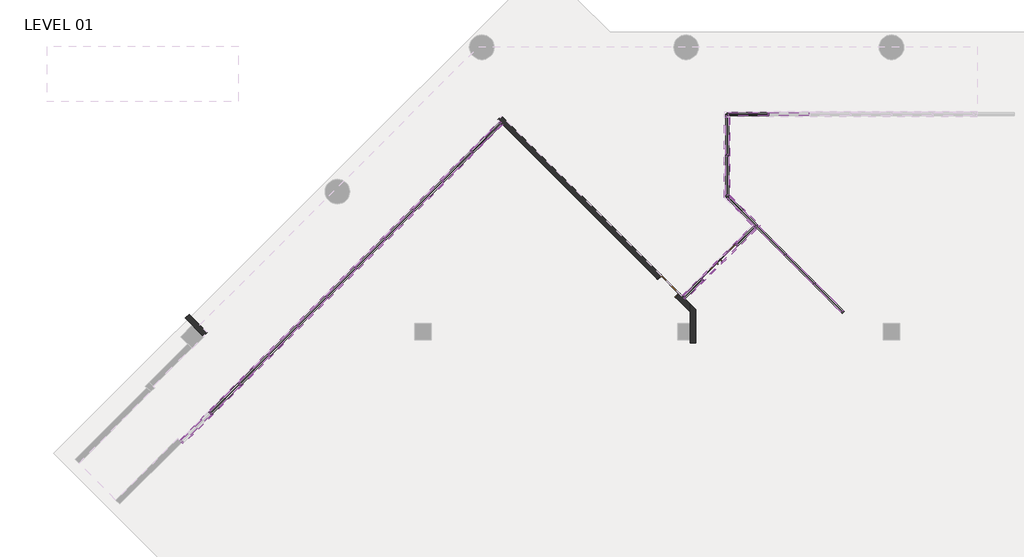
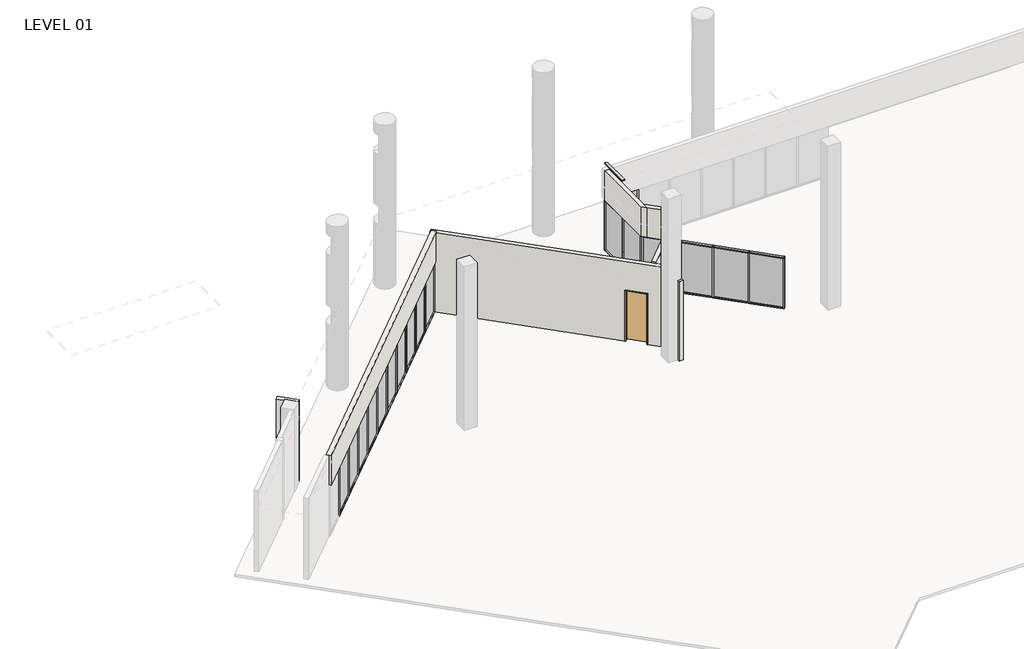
# One storey, part 6 of 24: 78 members, 19 plates, 7 walls, 2 doors.
"""IFC4 building model written with IfcOpenShell, lengths in millimetres."""

from ifc_helpers import new_model, si_unit, frame, origin, origin_with_axes, place, context, project, spatial, polyline, outline, extrude, faceted_brep, transform, mapped, element, save
from components import curtain_wall_dbl_glass_curtain_wall_dbl_glass_222e0a92, door_25aa1bd3, member_5247f267, member_e44af9ab, member_800970d4, member_35b16393, member_cca1f9e6, member_67d17f7f, member_d5560c68, member_05e6bac6, plate_67294edd, plate_aaac5d3d, plate_5a14c350, plate_4fb64caf, plate_748a28b9

model = new_model("IFC4")

# Units and contexts
model_context = context("Model", 3, world=origin())
ifc_project = project(units=[si_unit("LENGTHUNIT", "METRE", prefix="MILLI")], contexts=[model_context])

# Site, building, storey
site = spatial("IfcSite", under=ifc_project)
building = spatial("IfcBuilding", under=site)
storey = spatial("IfcBuildingStorey", under=building, Name="LEVEL 01", Elevation=0.0)

# Doors
placement = place(None, origin())
curtain_wall_dbl_glass_curtain_wall_dbl_glass_shape = curtain_wall_dbl_glass_curtain_wall_dbl_glass_222e0a92(model_context)
element("IfcDoor", 1, ObjectType="Curtain Wall Dbl Glass : Curtain Wall Dbl Glass", at=placement, inside=storey, context=model_context, shape_type="MappedRepresentation", body=[
    mapped(curtain_wall_dbl_glass_curtain_wall_dbl_glass_shape, transform((19633.6601484, 17599.7315515, 0.0), x_axis=(-0.7071067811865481, -0.7071067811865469, 0.0), y_axis=(0.7071067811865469, -0.7071067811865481, 0.0), z_axis=(0.0, 0.0, 1.0))),
])
door_shape = door_25aa1bd3(model_context)
element("IfcDoor", 2, ObjectType="Single Flush-Full Flush-FF : 3'-0\" X 8'-6\"", at=placement, inside=storey, context=model_context, shape_type="MappedRepresentation", body=[
    mapped(door_shape, transform((17740.4219585, 16704.6002158, 0.0), x_axis=(-0.7071067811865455, 0.7071067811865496, 0.0), y_axis=(-0.7071067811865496, -0.7071067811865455, 0.0), z_axis=(0.0, 0.0, 1.0))),
])

# Members
member_shape = member_5247f267(model_context)
element("IfcMember", 3, ObjectType="Rectangular Mullion : 2\" x 4.5\" rectangular", at=placement, inside=storey, context=model_context, shape_type="MappedRepresentation", body=[
    mapped(member_shape, transform((772.3020264, 12012.4904011, 0.0), x_axis=(0.0, 0.0, -1.0), y_axis=(0.707106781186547, -0.7071067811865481, 0.0), z_axis=(-0.707106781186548, -0.7071067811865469, 0.0))),
])
element("IfcMember", 4, ObjectType="Rectangular Mullion : 2\" x 4.5\" rectangular", at=placement, inside=storey, context=model_context, shape_type="MappedRepresentation", body=[
    mapped(member_shape, transform((4005.1646265, 15245.3530013, 0.0), x_axis=(0.0, 0.0, -1.0), y_axis=(0.7071067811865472, -0.7071067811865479, 0.0), z_axis=(-0.7071067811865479, -0.7071067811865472, 0.0))),
])
element("IfcMember", 5, ObjectType="Rectangular Mullion : 2\" x 4.5\" rectangular", at=placement, inside=storey, context=model_context, shape_type="MappedRepresentation", body=[
    mapped(member_shape, transform((6160.3964921, 17400.5848669, 0.0), x_axis=(0.0, 0.0, -1.0), y_axis=(0.7071067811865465, -0.7071067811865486, 0.0), z_axis=(-0.7071067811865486, -0.7071067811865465, 0.0))),
])
element("IfcMember", 6, ObjectType="Rectangular Mullion : 2\" x 4.5\" rectangular", at=placement, inside=storey, context=model_context, shape_type="MappedRepresentation", body=[
    mapped(member_shape, transform((7238.012425, 18478.2007997, 0.0), x_axis=(0.0, 0.0, -1.0), y_axis=(0.7071067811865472, -0.7071067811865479, 0.0), z_axis=(-0.7071067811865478, -0.7071067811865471, 0.0))),
])
element("IfcMember", 7, ObjectType="Rectangular Mullion : 2\" x 4.5\" rectangular", at=placement, inside=storey, context=model_context, shape_type="MappedRepresentation", body=[
    mapped(member_shape, transform((9393.273894, 20633.4622687, 0.0), x_axis=(0.0, 0.0, -1.0), y_axis=(0.7071067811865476, -0.7071067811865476, 0.0), z_axis=(-0.7071067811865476, -0.7071067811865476, 0.0))),
])
element("IfcMember", 8, ObjectType="Rectangular Mullion : 2\" x 4.5\" rectangular", at=placement, inside=storey, context=model_context, shape_type="MappedRepresentation", body=[
    mapped(member_shape, transform((1849.9327609, 13090.1211357, 0.0), x_axis=(0.0, 0.0, -1.0), y_axis=(0.7071067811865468, -0.7071067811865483, 0.0), z_axis=(-0.7071067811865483, -0.7071067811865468, 0.0))),
])
element("IfcMember", 9, ObjectType="Rectangular Mullion : 2\" x 4.5\" rectangular", at=placement, inside=storey, context=model_context, shape_type="MappedRepresentation", body=[
    mapped(member_shape, transform((5082.7805593, 16322.9689341, 0.0), x_axis=(0.0, 0.0, -1.0), y_axis=(0.7071067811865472, -0.7071067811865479, 0.0), z_axis=(-0.7071067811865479, -0.7071067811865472, 0.0))),
])
element("IfcMember", 10, ObjectType="Rectangular Mullion : 2\" x 4.5\" rectangular", at=placement, inside=storey, context=model_context, shape_type="MappedRepresentation", body=[
    mapped(member_shape, transform((2927.5486937, 14167.7370685, 0.0), x_axis=(0.0, 0.0, -1.0), y_axis=(0.7071067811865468, -0.7071067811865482, 0.0), z_axis=(-0.7071067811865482, -0.7071067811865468, 0.0))),
])
element("IfcMember", 11, ObjectType="Rectangular Mullion : 2\" x 4.5\" rectangular", at=placement, inside=storey, context=model_context, shape_type="MappedRepresentation", body=[
    mapped(member_shape, transform((8315.6431595, 19555.8315342, 0.0), x_axis=(0.0, 0.0, -1.0), y_axis=(0.7071067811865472, -0.7071067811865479, 0.0), z_axis=(-0.7071067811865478, -0.7071067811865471, 0.0))),
])
element("IfcMember", 12, ObjectType="Rectangular Mullion : 2\" x 4.5\" rectangular", at=placement, inside=storey, context=model_context, shape_type="MappedRepresentation", body=[
    mapped(member_shape, transform((21015.5412468, 18945.6916253, 0.0), x_axis=(0.0, 0.0, -1.0), y_axis=(-0.7071067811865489, -0.7071067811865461, 0.0), z_axis=(-0.7071067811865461, 0.7071067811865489, 0.0))),
])
element("IfcMember", 13, ObjectType="Rectangular Mullion : 2\" x 4.5\" rectangular", at=placement, inside=storey, context=model_context, shape_type="MappedRepresentation", body=[
    mapped(member_shape, transform((22093.1719813, 17868.0608908, 0.0), x_axis=(0.0, 0.0, -1.0), y_axis=(-0.7071067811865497, -0.7071067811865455, 0.0), z_axis=(-0.7071067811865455, 0.7071067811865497, 0.0))),
])
element("IfcMember", 14, ObjectType="Rectangular Mullion : 2\" x 4.5\" rectangular", at=placement, inside=storey, context=model_context, shape_type="MappedRepresentation", body=[
    mapped(member_shape, transform((3969.2436021, 15209.4319768, 2590.8), x_axis=(0.0, 0.0, 1.0), y_axis=(0.7071067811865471, -0.7071067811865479, 0.0), z_axis=(0.7071067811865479, 0.7071067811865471, 0.0))),
])
element("IfcMember", 15, ObjectType="Rectangular Mullion : 2\" x 4.5\" rectangular", at=placement, inside=storey, context=model_context, shape_type="MappedRepresentation", body=[
    mapped(member_shape, transform((6124.4754677, 17364.6638424, 2590.8), x_axis=(0.0, 0.0, 1.0), y_axis=(0.7071067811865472, -0.7071067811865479, 0.0), z_axis=(0.7071067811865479, 0.7071067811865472, 0.0))),
])
element("IfcMember", 16, ObjectType="Rectangular Mullion : 2\" x 4.5\" rectangular", at=placement, inside=storey, context=model_context, shape_type="MappedRepresentation", body=[
    mapped(member_shape, transform((7202.0914005, 18442.2797752, 2590.8), x_axis=(0.0, 0.0, 1.0), y_axis=(0.7071067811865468, -0.7071067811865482, 0.0), z_axis=(0.7071067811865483, 0.7071067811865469, 0.0))),
])
element("IfcMember", 17, ObjectType="Rectangular Mullion : 2\" x 4.5\" rectangular", at=placement, inside=storey, context=model_context, shape_type="MappedRepresentation", body=[
    mapped(member_shape, transform((9357.3528695, 20597.5412442, 2590.8), x_axis=(0.0, 0.0, 1.0), y_axis=(0.7071067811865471, -0.7071067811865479, 0.0), z_axis=(0.7071067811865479, 0.7071067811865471, 0.0))),
])
element("IfcMember", 18, ObjectType="Rectangular Mullion : 2\" x 4.5\" rectangular", at=placement, inside=storey, context=model_context, shape_type="MappedRepresentation", body=[
    mapped(member_shape, transform((1814.0117365, 13054.2001112, 2590.8), x_axis=(0.0, 0.0, 1.0), y_axis=(0.7071067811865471, -0.707106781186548, 0.0), z_axis=(0.7071067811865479, 0.707106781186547, 0.0))),
])
element("IfcMember", 19, ObjectType="Rectangular Mullion : 2\" x 4.5\" rectangular", at=placement, inside=storey, context=model_context, shape_type="MappedRepresentation", body=[
    mapped(member_shape, transform((5046.8595349, 16287.0479096, 2590.8), x_axis=(0.0, 0.0, 1.0), y_axis=(0.7071067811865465, -0.7071067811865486, 0.0), z_axis=(0.7071067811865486, 0.7071067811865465, 0.0))),
])
element("IfcMember", 20, ObjectType="Rectangular Mullion : 2\" x 4.5\" rectangular", at=placement, inside=storey, context=model_context, shape_type="MappedRepresentation", body=[
    mapped(member_shape, transform((2891.6276693, 14131.816044, 2590.8), x_axis=(0.0, 0.0, 1.0), y_axis=(0.7071067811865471, -0.707106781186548, 0.0), z_axis=(0.707106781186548, 0.7071067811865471, 0.0))),
])
element("IfcMember", 21, ObjectType="Rectangular Mullion : 2\" x 4.5\" rectangular", at=placement, inside=storey, context=model_context, shape_type="MappedRepresentation", body=[
    mapped(member_shape, transform((8279.722135, 19519.9105097, 2590.8), x_axis=(0.0, 0.0, 1.0), y_axis=(0.7071067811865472, -0.7071067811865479, 0.0), z_axis=(0.7071067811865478, 0.7071067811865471, 0.0))),
])
element("IfcMember", 22, ObjectType="Rectangular Mullion : 2\" x 4.5\" rectangular", at=placement, inside=storey, context=model_context, shape_type="MappedRepresentation", body=[
    mapped(member_shape, transform((10434.9836041, 21675.1719788, 2590.8), x_axis=(0.0, 0.0, 1.0), y_axis=(0.7071067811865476, -0.7071067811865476, 0.0), z_axis=(0.7071067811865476, 0.7071067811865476, 0.0))),
])
element("IfcMember", 23, ObjectType="Rectangular Mullion : 2\" x 4.5\" rectangular", at=placement, inside=storey, context=model_context, shape_type="MappedRepresentation", body=[
    mapped(member_shape, transform((21469.35, 23089.2828721, 2590.8), x_axis=(0.0, 0.0, 1.0), y_axis=(0.0, 1.0, 0.0), z_axis=(-1.0, 0.0, 0.0))),
])
element("IfcMember", 24, ObjectType="Rectangular Mullion : 2\" x 4.5\" rectangular", at=placement, inside=storey, context=model_context, shape_type="MappedRepresentation", body=[
    mapped(member_shape, transform((23134.8816913, 16826.3511808, 2590.8), x_axis=(0.0, 0.0, 1.0), y_axis=(-0.7071067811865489, -0.7071067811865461, 0.0), z_axis=(0.7071067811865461, -0.7071067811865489, 0.0))),
])
element("IfcMember", 25, ObjectType="Rectangular Mullion : 2\" x 4.5\" rectangular", at=placement, inside=storey, context=model_context, shape_type="MappedRepresentation", body=[
    mapped(member_shape, transform((22057.2509568, 17903.9819153, 2590.8), x_axis=(0.0, 0.0, 1.0), y_axis=(-0.7071067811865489, -0.7071067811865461, 0.0), z_axis=(0.7071067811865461, -0.7071067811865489, 0.0))),
])
member_2_shape = member_e44af9ab(model_context)
element("IfcMember", 26, ObjectType="Rectangular Mullion : 2\" x 4.5\" rectangular", at=placement, inside=storey, context=model_context, shape_type="MappedRepresentation", body=[
    mapped(member_2_shape, transform((754.3415142, 11994.5298889, 0.0), x_axis=(0.7071067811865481, 0.7071067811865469, 0.0), y_axis=(0.7071067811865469, -0.7071067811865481, 0.0), z_axis=(0.0, 0.0, -1.0))),
])
element("IfcMember", 27, ObjectType="Rectangular Mullion : 2\" x 4.5\" rectangular", at=placement, inside=storey, context=model_context, shape_type="MappedRepresentation", body=[
    mapped(member_2_shape, transform((3987.2041143, 15227.392489, 0.0), x_axis=(0.7071067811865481, 0.7071067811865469, 0.0), y_axis=(0.7071067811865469, -0.7071067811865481, 0.0), z_axis=(0.0, 0.0, -1.0))),
])
element("IfcMember", 28, ObjectType="Rectangular Mullion : 2\" x 4.5\" rectangular", at=placement, inside=storey, context=model_context, shape_type="MappedRepresentation", body=[
    mapped(member_2_shape, transform((6142.4359799, 17382.6243546, 0.0), x_axis=(0.7071067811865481, 0.7071067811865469, 0.0), y_axis=(0.7071067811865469, -0.7071067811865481, 0.0), z_axis=(0.0, 0.0, -1.0))),
])
element("IfcMember", 29, ObjectType="Rectangular Mullion : 2\" x 4.5\" rectangular", at=placement, inside=storey, context=model_context, shape_type="MappedRepresentation", body=[
    mapped(member_2_shape, transform((7220.0519127, 18460.2402874, 0.0), x_axis=(0.7071067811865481, 0.7071067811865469, 0.0), y_axis=(0.7071067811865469, -0.7071067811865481, 0.0), z_axis=(0.0, 0.0, -1.0))),
])
element("IfcMember", 30, ObjectType="Rectangular Mullion : 2\" x 4.5\" rectangular", at=placement, inside=storey, context=model_context, shape_type="MappedRepresentation", body=[
    mapped(member_2_shape, transform((9375.3133818, 20615.5017565, 0.0), x_axis=(0.7071067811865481, 0.7071067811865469, 0.0), y_axis=(0.7071067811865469, -0.7071067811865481, 0.0), z_axis=(0.0, 0.0, -1.0))),
])
element("IfcMember", 31, ObjectType="Rectangular Mullion : 2\" x 4.5\" rectangular", at=placement, inside=storey, context=model_context, shape_type="MappedRepresentation", body=[
    mapped(member_2_shape, transform((1831.9722487, 13072.1606234, 0.0), x_axis=(0.7071067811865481, 0.7071067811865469, 0.0), y_axis=(0.7071067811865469, -0.7071067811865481, 0.0), z_axis=(0.0, 0.0, -1.0))),
])
element("IfcMember", 32, ObjectType="Rectangular Mullion : 2\" x 4.5\" rectangular", at=placement, inside=storey, context=model_context, shape_type="MappedRepresentation", body=[
    mapped(member_2_shape, transform((5064.8200471, 16305.0084218, 0.0), x_axis=(0.7071067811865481, 0.7071067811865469, 0.0), y_axis=(0.7071067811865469, -0.7071067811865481, 0.0), z_axis=(0.0, 0.0, -1.0))),
])
element("IfcMember", 33, ObjectType="Rectangular Mullion : 2\" x 4.5\" rectangular", at=placement, inside=storey, context=model_context, shape_type="MappedRepresentation", body=[
    mapped(member_2_shape, transform((2909.5881815, 14149.7765562, 0.0), x_axis=(0.7071067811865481, 0.7071067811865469, 0.0), y_axis=(0.7071067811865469, -0.7071067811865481, 0.0), z_axis=(0.0, 0.0, -1.0))),
])
element("IfcMember", 34, ObjectType="Rectangular Mullion : 2\" x 4.5\" rectangular", at=placement, inside=storey, context=model_context, shape_type="MappedRepresentation", body=[
    mapped(member_2_shape, transform((8297.6826472, 19537.871022, 0.0), x_axis=(0.7071067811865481, 0.7071067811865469, 0.0), y_axis=(0.7071067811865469, -0.7071067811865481, 0.0), z_axis=(0.0, 0.0, -1.0))),
])
element("IfcMember", 35, ObjectType="Rectangular Mullion : 2\" x 4.5\" rectangular", at=placement, inside=storey, context=model_context, shape_type="MappedRepresentation", body=[
    mapped(member_2_shape, transform((10452.9441163, 21693.132491, 0.0), x_axis=(0.7071067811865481, 0.7071067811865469, 0.0), y_axis=(0.7071067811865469, -0.7071067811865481, 0.0), z_axis=(0.0, 0.0, -1.0))),
])
element("IfcMember", 36, ObjectType="Rectangular Mullion : 2\" x 4.5\" rectangular", at=placement, inside=storey, context=model_context, shape_type="MappedRepresentation", body=[
    mapped(member_2_shape, transform((21443.95, 23089.2828721, 0.0), x_axis=(-1.0, 0.0, 0.0), y_axis=(0.0, 1.0, 0.0), z_axis=(0.0, 0.0, -1.0))),
])
element("IfcMember", 37, ObjectType="Rectangular Mullion : 2\" x 4.5\" rectangular", at=placement, inside=storey, context=model_context, shape_type="MappedRepresentation", body=[
    mapped(member_2_shape, transform((19919.95, 21565.2828721, 0.0), x_axis=(0.0, -1.0, 0.0), y_axis=(-1.0, 0.0, 0.0), z_axis=(0.0, 0.0, -1.0))),
])
element("IfcMember", 38, ObjectType="Rectangular Mullion : 2\" x 4.5\" rectangular", at=placement, inside=storey, context=model_context, shape_type="MappedRepresentation", body=[
    mapped(member_2_shape, transform((20997.5807345, 18963.6521376, 0.0), x_axis=(0.7071067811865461, -0.707106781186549, 0.0), y_axis=(-0.707106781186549, -0.7071067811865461, 0.0), z_axis=(0.0, 0.0, -1.0))),
])
element("IfcMember", 39, ObjectType="Rectangular Mullion : 2\" x 4.5\" rectangular", at=placement, inside=storey, context=model_context, shape_type="MappedRepresentation", body=[
    mapped(member_2_shape, transform((23152.8422036, 16808.3906685, 0.0), x_axis=(0.7071067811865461, -0.707106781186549, 0.0), y_axis=(-0.707106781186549, -0.7071067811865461, 0.0), z_axis=(0.0, 0.0, -1.0))),
])
element("IfcMember", 40, ObjectType="Rectangular Mullion : 2\" x 4.5\" rectangular", at=placement, inside=storey, context=model_context, shape_type="MappedRepresentation", body=[
    mapped(member_2_shape, transform((22075.2114691, 17886.0214031, 0.0), x_axis=(0.7071067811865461, -0.707106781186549, 0.0), y_axis=(-0.707106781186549, -0.7071067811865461, 0.0), z_axis=(0.0, 0.0, -1.0))),
])
element("IfcMember", 41, ObjectType="Rectangular Mullion : 2\" x 4.5\" rectangular", at=placement, inside=storey, context=model_context, shape_type="MappedRepresentation", body=[
    mapped(member_2_shape, transform((20280.2385891, 18246.3099922, 0.0), x_axis=(-0.7071067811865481, -0.7071067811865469, 0.0), y_axis=(-0.7071067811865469, 0.7071067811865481, 0.0), z_axis=(0.0, 0.0, -1.0))),
])
element("IfcMember", 42, ObjectType="Rectangular Mullion : 2\" x 4.5\" rectangular", at=placement, inside=storey, context=model_context, shape_type="MappedRepresentation", body=[
    mapped(member_2_shape, transform((18987.0817077, 16953.1531108, 0.0), x_axis=(-0.7071067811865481, -0.7071067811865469, 0.0), y_axis=(-0.7071067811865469, 0.7071067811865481, 0.0), z_axis=(0.0, 0.0, -1.0))),
])
member_3_shape = member_800970d4(model_context)
element("IfcMember", 43, ObjectType="Rectangular Mullion : 2\" x 4.5\" rectangular", at=placement, inside=storey, context=model_context, shape_type="MappedRepresentation", body=[
    mapped(member_3_shape, transform((11530.5748508, 22770.7632255, 0.0), x_axis=(0.7071067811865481, 0.7071067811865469, 0.0), y_axis=(0.7071067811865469, -0.7071067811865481, 0.0), z_axis=(0.0, 0.0, -1.0))),
])
element("IfcMember", 44, ObjectType="Rectangular Mullion : 2\" x 4.5\" rectangular", at=placement, inside=storey, context=model_context, shape_type="MappedRepresentation", body=[
    mapped(member_3_shape, transform((19919.95, 23089.2828721, 0.0), x_axis=(-1.0, 0.0, 0.0), y_axis=(0.0, 1.0, 0.0), z_axis=(0.0, 0.0, -1.0))),
])
element("IfcMember", 45, ObjectType="Rectangular Mullion : 2\" x 4.5\" rectangular", at=placement, inside=storey, context=model_context, shape_type="MappedRepresentation", body=[
    mapped(member_3_shape, transform((19919.95, 20041.2828721, 0.0), x_axis=(0.0, -1.0, 0.0), y_axis=(-1.0, 0.0, 0.0), z_axis=(0.0, 0.0, -1.0))),
])
element("IfcMember", 46, ObjectType="Rectangular Mullion : 2\" x 4.5\" rectangular", at=placement, inside=storey, context=model_context, shape_type="MappedRepresentation", body=[
    mapped(member_3_shape, transform((24230.4729381, 15730.759934, 0.0), x_axis=(0.7071067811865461, -0.707106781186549, 0.0), y_axis=(-0.707106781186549, -0.7071067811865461, 0.0), z_axis=(0.0, 0.0, -1.0))),
])
element("IfcMember", 47, ObjectType="Rectangular Mullion : 2\" x 4.5\" rectangular", at=placement, inside=storey, context=model_context, shape_type="MappedRepresentation", body=[
    mapped(member_3_shape, transform((18311.3174346, 16277.3888377, 0.0), x_axis=(-0.7071067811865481, -0.7071067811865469, 0.0), y_axis=(-0.7071067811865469, 0.7071067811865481, 0.0), z_axis=(0.0, 0.0, -1.0))),
])
element("IfcMember", 48, ObjectType="Rectangular Mullion : 2\" x 4.5\" rectangular", at=placement, inside=storey, context=model_context, shape_type="MappedRepresentation", body=[
    mapped(member_3_shape, transform((19919.95, 23089.2828721, 2590.8), x_axis=(0.0, 1.0, 0.0), y_axis=(-1.0, 0.0, 0.0), z_axis=(0.0, 0.0, 1.0))),
])
element("IfcMember", 49, ObjectType="Rectangular Mullion : 2\" x 4.5\" rectangular", at=placement, inside=storey, context=model_context, shape_type="MappedRepresentation", body=[
    mapped(member_3_shape, transform((19919.95, 20041.2828721, 2590.8), x_axis=(-0.7071067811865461, 0.707106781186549, 0.0), y_axis=(-0.707106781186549, -0.7071067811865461, 0.0), z_axis=(0.0, 0.0, 1.0))),
])
element("IfcMember", 50, ObjectType="Rectangular Mullion : 2\" x 4.5\" rectangular", at=placement, inside=storey, context=model_context, shape_type="MappedRepresentation", body=[
    mapped(member_3_shape, transform((20957.169582, 18923.240985, 2590.8), x_axis=(0.7071067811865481, 0.7071067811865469, 0.0), y_axis=(-0.7071067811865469, 0.7071067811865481, 0.0), z_axis=(0.0, 0.0, 1.0))),
])
member_4_shape = member_35b16393(model_context)
element("IfcMember", 51, ObjectType="Rectangular Mullion : 2\" x 4.5\" rectangular", at=placement, inside=storey, context=model_context, shape_type="MappedRepresentation", body=[
    mapped(member_4_shape, transform((19919.95, 21565.2828721, -914.4), x_axis=(0.0, -1.0, 0.0), y_axis=(-1.0, 0.0, 0.0), z_axis=(0.0, 0.0, -1.0))),
])
element("IfcMember", 52, ObjectType="Rectangular Mullion : 2\" x 4.5\" rectangular", at=placement, inside=storey, context=model_context, shape_type="MappedRepresentation", body=[
    mapped(member_4_shape, transform((19919.95, 21565.2828721, -914.4), x_axis=(0.0, -1.0, 0.0), y_axis=(-1.0, 0.0, 0.0), z_axis=(0.0, 0.0, -1.0))),
])
element("IfcMember", 53, ObjectType="Rectangular Mullion : 2\" x 4.5\" rectangular", at=placement, inside=storey, context=model_context, shape_type="MappedRepresentation", body=[
    mapped(member_4_shape, transform((19919.95, 21565.2828721, -914.4), x_axis=(0.0, -1.0, 0.0), y_axis=(-1.0, 0.0, 0.0), z_axis=(0.0, 0.0, -1.0))),
])
element("IfcMember", 54, ObjectType="Rectangular Mullion : 2\" x 4.5\" rectangular", at=placement, inside=storey, context=model_context, shape_type="MappedRepresentation", body=[
    mapped(member_4_shape, transform((19919.95, 21565.2828721, -914.4), x_axis=(0.0, -1.0, 0.0), y_axis=(-1.0, 0.0, 0.0), z_axis=(0.0, 0.0, -1.0))),
])
member_5_shape = member_cca1f9e6(model_context)
element("IfcMember", 55, ObjectType="Rectangular Mullion : 2\" x 4.5\" rectangular", at=placement, inside=storey, context=model_context, shape_type="MappedRepresentation", body=[
    mapped(member_5_shape, transform((11494.6538263, 22734.8422011, 2590.8), x_axis=(0.0, 0.0, 1.0), y_axis=(0.7071067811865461, -0.707106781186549, 0.0), z_axis=(0.7071067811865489, 0.707106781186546, 0.0))),
])
element("IfcMember", 56, ObjectType="Rectangular Mullion : 2\" x 4.5\" rectangular", at=placement, inside=storey, context=model_context, shape_type="MappedRepresentation", body=[
    mapped(member_5_shape, transform((736.3810019, 11976.5693766, 2590.8), x_axis=(0.0, 0.0, 1.0), y_axis=(0.7071067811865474, -0.7071067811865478, 0.0), z_axis=(0.7071067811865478, 0.7071067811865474, 0.0))),
])
element("IfcMember", 57, ObjectType="Rectangular Mullion : 2\" x 4.5\" rectangular", at=placement, inside=storey, context=model_context, shape_type="MappedRepresentation", body=[
    mapped(member_5_shape, transform((19970.75, 23089.2828721, 2590.8), x_axis=(0.0, 0.0, 1.0), y_axis=(0.0, 1.0, 0.0), z_axis=(-1.0, 0.0, 0.0))),
])
element("IfcMember", 58, ObjectType="Rectangular Mullion : 2\" x 4.5\" rectangular", at=placement, inside=storey, context=model_context, shape_type="MappedRepresentation", body=[
    mapped(member_5_shape, transform((19919.95, 20092.0828721, 2590.8), x_axis=(0.0, 0.0, 1.0), y_axis=(-1.0, 0.0, 0.0), z_axis=(0.0, -1.0, 0.0))),
])
element("IfcMember", 59, ObjectType="Rectangular Mullion : 2\" x 4.5\" rectangular", at=placement, inside=storey, context=model_context, shape_type="MappedRepresentation", body=[
    mapped(member_5_shape, transform((19919.95, 21590.6828721, 4445.0), x_axis=(0.0, 0.0, 1.0), y_axis=(-1.0, 0.0, 0.0), z_axis=(0.0, -1.0, 0.0))),
])
element("IfcMember", 60, ObjectType="Rectangular Mullion : 2\" x 4.5\" rectangular", at=placement, inside=storey, context=model_context, shape_type="MappedRepresentation", body=[
    mapped(member_5_shape, transform((19919.95, 21590.6828721, 2590.8), x_axis=(0.0, 0.0, 1.0), y_axis=(-1.0, 0.0, 0.0), z_axis=(0.0, -1.0, 0.0))),
])
element("IfcMember", 61, ObjectType="Rectangular Mullion : 2\" x 4.5\" rectangular", at=placement, inside=storey, context=model_context, shape_type="MappedRepresentation", body=[
    mapped(member_5_shape, transform((24194.5519136, 15766.6809585, 2590.8), x_axis=(0.0, 0.0, 1.0), y_axis=(-0.7071067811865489, -0.7071067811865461, 0.0), z_axis=(0.7071067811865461, -0.7071067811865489, 0.0))),
])
element("IfcMember", 62, ObjectType="Rectangular Mullion : 2\" x 4.5\" rectangular", at=placement, inside=storey, context=model_context, shape_type="MappedRepresentation", body=[
    mapped(member_5_shape, transform((20979.6202223, 18981.6126498, 2590.8), x_axis=(0.0, 0.0, 1.0), y_axis=(-0.707106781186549, -0.7071067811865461, 0.0), z_axis=(0.707106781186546, -0.7071067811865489, 0.0))),
])
element("IfcMember", 63, ObjectType="Rectangular Mullion : 2\" x 4.5\" rectangular", at=placement, inside=storey, context=model_context, shape_type="MappedRepresentation", body=[
    mapped(member_5_shape, transform((19919.95, 21590.6828721, 4445.0), x_axis=(0.0, 0.0, 1.0), y_axis=(-1.0, 0.0, 0.0), z_axis=(0.0, -1.0, 0.0))),
])
element("IfcMember", 64, ObjectType="Rectangular Mullion : 2\" x 4.5\" rectangular", at=placement, inside=storey, context=model_context, shape_type="MappedRepresentation", body=[
    mapped(member_5_shape, transform((19919.95, 21590.6828721, 4445.0), x_axis=(0.0, 0.0, 1.0), y_axis=(-1.0, 0.0, 0.0), z_axis=(0.0, -1.0, 0.0))),
])
element("IfcMember", 65, ObjectType="Rectangular Mullion : 2\" x 4.5\" rectangular", at=placement, inside=storey, context=model_context, shape_type="MappedRepresentation", body=[
    mapped(member_5_shape, transform((19919.95, 21590.6828721, 4445.0), x_axis=(0.0, 0.0, 1.0), y_axis=(-1.0, 0.0, 0.0), z_axis=(0.0, -1.0, 0.0))),
])
element("IfcMember", 66, ObjectType="Rectangular Mullion : 2\" x 4.5\" rectangular", at=placement, inside=storey, context=model_context, shape_type="MappedRepresentation", body=[
    mapped(member_5_shape, transform((10470.9046285, 21711.0930033, 0.0), x_axis=(0.0, 0.0, -1.0), y_axis=(0.7071067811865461, -0.7071067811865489, 0.0), z_axis=(-0.7071067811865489, -0.7071067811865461, 0.0))),
])
element("IfcMember", 67, ObjectType="Rectangular Mullion : 2\" x 4.5\" rectangular", at=placement, inside=storey, context=model_context, shape_type="MappedRepresentation", body=[
    mapped(member_5_shape, transform((19919.95, 23038.4828721, 0.0), x_axis=(0.0, 0.0, -1.0), y_axis=(-1.0, 0.0, 0.0), z_axis=(0.0, 1.0, 0.0))),
])
element("IfcMember", 68, ObjectType="Rectangular Mullion : 2\" x 4.5\" rectangular", at=placement, inside=storey, context=model_context, shape_type="MappedRepresentation", body=[
    mapped(member_5_shape, transform((19919.95, 21539.8828721, -914.4), x_axis=(0.0, 0.0, -1.0), y_axis=(-1.0, 0.0, 0.0), z_axis=(0.0, 1.0, 0.0))),
])
element("IfcMember", 69, ObjectType="Rectangular Mullion : 2\" x 4.5\" rectangular", at=placement, inside=storey, context=model_context, shape_type="MappedRepresentation", body=[
    mapped(member_5_shape, transform((21418.55, 23089.2828721, 0.0), x_axis=(0.0, 0.0, -1.0), y_axis=(0.0, 1.0, 0.0), z_axis=(1.0, 0.0, 0.0))),
])
element("IfcMember", 70, ObjectType="Rectangular Mullion : 2\" x 4.5\" rectangular", at=placement, inside=storey, context=model_context, shape_type="MappedRepresentation", body=[
    mapped(member_5_shape, transform((19919.95, 21539.8828721, 0.0), x_axis=(0.0, 0.0, -1.0), y_axis=(-1.0, 0.0, 0.0), z_axis=(0.0, 1.0, 0.0))),
])
element("IfcMember", 71, ObjectType="Rectangular Mullion : 2\" x 4.5\" rectangular", at=placement, inside=storey, context=model_context, shape_type="MappedRepresentation", body=[
    mapped(member_5_shape, transform((19955.8710245, 20005.3618476, 0.0), x_axis=(0.0, 0.0, -1.0), y_axis=(-0.707106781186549, -0.7071067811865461, 0.0), z_axis=(-0.707106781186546, 0.7071067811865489, 0.0))),
])
element("IfcMember", 72, ObjectType="Rectangular Mullion : 2\" x 4.5\" rectangular", at=placement, inside=storey, context=model_context, shape_type="MappedRepresentation", body=[
    mapped(member_5_shape, transform((23170.8027158, 16790.4301563, 0.0), x_axis=(0.0, 0.0, -1.0), y_axis=(-0.7071067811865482, -0.7071067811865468, 0.0), z_axis=(-0.7071067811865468, 0.7071067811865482, 0.0))),
])
element("IfcMember", 73, ObjectType="Rectangular Mullion : 2\" x 4.5\" rectangular", at=placement, inside=storey, context=model_context, shape_type="MappedRepresentation", body=[
    mapped(member_5_shape, transform((19919.95, 21539.8828721, -914.4), x_axis=(0.0, 0.0, -1.0), y_axis=(-1.0, 0.0, 0.0), z_axis=(0.0, 1.0, 0.0))),
])
element("IfcMember", 74, ObjectType="Rectangular Mullion : 2\" x 4.5\" rectangular", at=placement, inside=storey, context=model_context, shape_type="MappedRepresentation", body=[
    mapped(member_5_shape, transform((19919.95, 21539.8828721, -914.4), x_axis=(0.0, 0.0, -1.0), y_axis=(-1.0, 0.0, 0.0), z_axis=(0.0, 1.0, 0.0))),
])
element("IfcMember", 75, ObjectType="Rectangular Mullion : 2\" x 4.5\" rectangular", at=placement, inside=storey, context=model_context, shape_type="MappedRepresentation", body=[
    mapped(member_5_shape, transform((19919.95, 21539.8828721, -914.4), x_axis=(0.0, 0.0, -1.0), y_axis=(-1.0, 0.0, 0.0), z_axis=(0.0, 1.0, 0.0))),
])
member_6_shape = member_67d17f7f(model_context)
element("IfcMember", 76, ObjectType="Rectangular Mullion : 2\" x 4.5\" rectangular", at=placement, inside=storey, context=model_context, shape_type="MappedRepresentation", body=[
    mapped(member_6_shape, transform((18347.2384591, 16313.3098621, 2590.8), x_axis=(0.0, 0.0, 1.0), y_axis=(-0.7071067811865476, 0.7071067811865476, 0.0), z_axis=(-0.7071067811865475, -0.7071067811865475, 0.0))),
])
element("IfcMember", 77, ObjectType="Rectangular Mullion : 2\" x 4.5\" rectangular", at=placement, inside=storey, context=model_context, shape_type="MappedRepresentation", body=[
    mapped(member_6_shape, transform((18969.1211955, 16935.1925985, 0.0), x_axis=(0.0, 0.0, -1.0), y_axis=(-0.7071067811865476, 0.7071067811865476, 0.0), z_axis=(0.7071067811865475, 0.7071067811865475, 0.0))),
])
member_7_shape = member_d5560c68(model_context)
element("IfcMember", 78, ObjectType="Rectangular Mullion : 2\" x 4.5\" rectangular", at=placement, inside=storey, context=model_context, shape_type="MappedRepresentation", body=[
    mapped(member_7_shape, transform((20921.2485575, 18887.3199606, 0.0), x_axis=(0.0, 0.0, -1.0), y_axis=(-0.7071067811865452, 0.7071067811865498, 0.0), z_axis=(0.7071067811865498, 0.7071067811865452, 0.0))),
])
element("IfcMember", 79, ObjectType="Rectangular Mullion : 2\" x 4.5\" rectangular", at=placement, inside=storey, context=model_context, shape_type="MappedRepresentation", body=[
    mapped(member_7_shape, transform((20298.1991014, 18264.2705044, 2590.8), x_axis=(0.0, 0.0, 1.0), y_axis=(-0.7071067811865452, 0.7071067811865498, 0.0), z_axis=(-0.7071067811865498, -0.7071067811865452, 0.0))),
])
member_8_shape = member_05e6bac6(model_context)
element("IfcMember", 80, ObjectType="Rectangular Mullion : 2\" x 4.5\" rectangular", at=placement, inside=storey, context=model_context, shape_type="MappedRepresentation", body=[
    mapped(member_8_shape, transform((19005.0422199, 16971.113623, 2590.8), x_axis=(0.0, 0.0, 1.0), y_axis=(-0.7071067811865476, 0.7071067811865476, 0.0), z_axis=(-0.7071067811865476, -0.7071067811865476, 0.0))),
])

# Plates
plate_shape = plate_67294edd(model_context)
element("IfcPlate", 81, ObjectType="System Panel : 1/4\" Glass", at=placement, inside=storey, context=model_context, shape_type="MappedRepresentation", body=[
    mapped(plate_shape, transform((1293.1568814, 12533.3452562, 50.8), x_axis=(0.7071067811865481, 0.7071067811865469, 0.0), y_axis=(-0.7071067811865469, 0.7071067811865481, 0.0), z_axis=(0.0, 0.0, 1.0))),
])
element("IfcPlate", 82, ObjectType="System Panel : 1/4\" Glass", at=placement, inside=storey, context=model_context, shape_type="MappedRepresentation", body=[
    mapped(plate_shape, transform((7758.86728, 18999.0556547, 50.8), x_axis=(0.7071067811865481, 0.7071067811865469, 0.0), y_axis=(-0.7071067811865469, 0.7071067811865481, 0.0), z_axis=(0.0, 0.0, 1.0))),
])
element("IfcPlate", 83, ObjectType="System Panel : 1/4\" Glass", at=placement, inside=storey, context=model_context, shape_type="MappedRepresentation", body=[
    mapped(plate_shape, transform((9914.128749, 21154.3171238, 50.8), x_axis=(0.7071067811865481, 0.7071067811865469, 0.0), y_axis=(-0.7071067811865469, 0.7071067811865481, 0.0), z_axis=(0.0, 0.0, 1.0))),
])
element("IfcPlate", 84, ObjectType="System Panel : 1/4\" Glass", at=placement, inside=storey, context=model_context, shape_type="MappedRepresentation", body=[
    mapped(plate_shape, transform((8836.4980145, 20076.6863892, 50.8), x_axis=(0.7071067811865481, 0.7071067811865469, 0.0), y_axis=(-0.7071067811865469, 0.7071067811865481, 0.0), z_axis=(0.0, 0.0, 1.0))),
])
element("IfcPlate", 85, ObjectType="System Panel : 1/4\" Glass", at=placement, inside=storey, context=model_context, shape_type="MappedRepresentation", body=[
    mapped(plate_shape, transform((21536.3961018, 18424.8367703, 50.8), x_axis=(0.7071067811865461, -0.707106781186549, 0.0), y_axis=(0.707106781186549, 0.7071067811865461, 0.0), z_axis=(0.0, 0.0, 1.0))),
])
element("IfcPlate", 86, ObjectType="System Panel : 1/4\" Glass", at=placement, inside=storey, context=model_context, shape_type="MappedRepresentation", body=[
    mapped(plate_shape, transform((22614.0268363, 17347.2060358, 50.8), x_axis=(0.7071067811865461, -0.707106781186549, 0.0), y_axis=(0.707106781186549, 0.7071067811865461, 0.0), z_axis=(0.0, 0.0, 1.0))),
])
plate_2_shape = plate_aaac5d3d(model_context)
element("IfcPlate", 87, ObjectType="System Panel : 1/4\" Glass", at=placement, inside=storey, context=model_context, shape_type="MappedRepresentation", body=[
    mapped(plate_2_shape, transform((4526.0120807, 15766.2004554, 50.8), x_axis=(0.7071067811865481, 0.7071067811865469, 0.0), y_axis=(-0.7071067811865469, 0.7071067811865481, 0.0), z_axis=(0.0, 0.0, 1.0))),
])
element("IfcPlate", 88, ObjectType="System Panel : 1/4\" Glass", at=placement, inside=storey, context=model_context, shape_type="MappedRepresentation", body=[
    mapped(plate_2_shape, transform((6681.2439463, 17921.432321, 50.8), x_axis=(0.7071067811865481, 0.7071067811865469, 0.0), y_axis=(-0.7071067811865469, 0.7071067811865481, 0.0), z_axis=(0.0, 0.0, 1.0))),
])
element("IfcPlate", 89, ObjectType="System Panel : 1/4\" Glass", at=placement, inside=storey, context=model_context, shape_type="MappedRepresentation", body=[
    mapped(plate_2_shape, transform((2370.7802151, 13610.9685898, 50.8), x_axis=(0.7071067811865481, 0.7071067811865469, 0.0), y_axis=(-0.7071067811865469, 0.7071067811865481, 0.0), z_axis=(0.0, 0.0, 1.0))),
])
element("IfcPlate", 90, ObjectType="System Panel : 1/4\" Glass", at=placement, inside=storey, context=model_context, shape_type="MappedRepresentation", body=[
    mapped(plate_2_shape, transform((5603.6280135, 16843.8163882, 50.8), x_axis=(0.7071067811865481, 0.7071067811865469, 0.0), y_axis=(-0.7071067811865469, 0.7071067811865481, 0.0), z_axis=(0.0, 0.0, 1.0))),
])
element("IfcPlate", 91, ObjectType="System Panel : 1/4\" Glass", at=placement, inside=storey, context=model_context, shape_type="MappedRepresentation", body=[
    mapped(plate_2_shape, transform((3448.3961479, 14688.5845226, 50.8), x_axis=(0.7071067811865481, 0.7071067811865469, 0.0), y_axis=(-0.7071067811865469, 0.7071067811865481, 0.0), z_axis=(0.0, 0.0, 1.0))),
])
plate_3_shape = plate_5a14c350(model_context)
element("IfcPlate", 92, ObjectType="System Panel : 1/4\" Glass", at=placement, inside=storey, context=model_context, shape_type="MappedRepresentation", body=[
    mapped(plate_3_shape, transform((10982.7792274, 22222.9676022, 50.8), x_axis=(0.7071067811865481, 0.7071067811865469, 0.0), y_axis=(-0.7071067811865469, 0.7071067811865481, 0.0), z_axis=(0.0, 0.0, 1.0))),
])
element("IfcPlate", 93, ObjectType="System Panel : 1/4\" Glass", at=placement, inside=storey, context=model_context, shape_type="MappedRepresentation", body=[
    mapped(plate_3_shape, transform((19919.95, 22314.5828721, 50.8), x_axis=(0.0, -1.0, 0.0), y_axis=(1.0, 0.0, 0.0), z_axis=(0.0, 0.0, 1.0))),
])
element("IfcPlate", 94, ObjectType="System Panel : 1/4\" Glass", at=placement, inside=storey, context=model_context, shape_type="MappedRepresentation", body=[
    mapped(plate_3_shape, transform((19919.95, 20815.9828721, 50.8), x_axis=(0.0, -1.0, 0.0), y_axis=(1.0, 0.0, 0.0), z_axis=(0.0, 0.0, 1.0))),
])
element("IfcPlate", 95, ObjectType="System Panel : 1/4\" Glass", at=placement, inside=storey, context=model_context, shape_type="MappedRepresentation", body=[
    mapped(plate_3_shape, transform((20694.65, 23089.2828721, 50.8), x_axis=(-1.0, 0.0, 0.0), y_axis=(0.0, -1.0, 0.0), z_axis=(0.0, 0.0, 1.0))),
])
element("IfcPlate", 96, ObjectType="System Panel : 1/4\" Glass", at=placement, inside=storey, context=model_context, shape_type="MappedRepresentation", body=[
    mapped(plate_3_shape, transform((20467.7456234, 19493.4872487, 50.8), x_axis=(0.7071067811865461, -0.707106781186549, 0.0), y_axis=(0.707106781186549, 0.7071067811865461, 0.0), z_axis=(0.0, 0.0, 1.0))),
])
element("IfcPlate", 97, ObjectType="System Panel : 1/4\" Glass", at=placement, inside=storey, context=model_context, shape_type="MappedRepresentation", body=[
    mapped(plate_3_shape, transform((23682.6773147, 16278.5555574, 50.8), x_axis=(0.7071067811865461, -0.707106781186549, 0.0), y_axis=(0.707106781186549, 0.7071067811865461, 0.0), z_axis=(0.0, 0.0, 1.0))),
])
plate_4_shape = plate_4fb64caf(model_context)
element("IfcPlate", 98, ObjectType="System Panel : 1/4\" Glass", at=placement, inside=storey, context=model_context, shape_type="MappedRepresentation", body=[
    mapped(plate_4_shape, transform((20609.7238294, 18575.7952325, 50.8), x_axis=(-0.7071067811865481, -0.7071067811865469, 0.0), y_axis=(0.7071067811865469, -0.7071067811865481, 0.0), z_axis=(0.0, 0.0, 1.0))),
])
plate_5_shape = plate_748a28b9(model_context)
element("IfcPlate", 99, ObjectType="System Panel : 1/4\" Glass", at=placement, inside=storey, context=model_context, shape_type="MappedRepresentation", body=[
    mapped(plate_5_shape, transform((18658.1798273, 16624.2512303, 50.8), x_axis=(-0.7071067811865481, -0.7071067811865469, 0.0), y_axis=(0.7071067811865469, -0.7071067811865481, 0.0), z_axis=(0.0, 0.0, 1.0))),
])

# Walls
element("IfcWall", 100, ObjectType="01-MASONRY-8", at=placement, inside=storey, context=model_context, shape_type="SweptSolid", body=[
    extrude(outline(polyline([(-43.9826836, 15666.5360454), (628.6179285, 14993.9354333), (484.9338305, 14850.2513354), (-187.6667816, 15522.8519475), (-43.9826836, 15666.5360454)])), origin_with_axes(), (0.0, 0.0, 1.0), 4089.4),
])
element("IfcWall", 101, ObjectType="8\" Existing Wall", at=placement, inside=storey, context=model_context, shape_type="Brep", body=[
    faceted_brep([(18542.0, 15759.3380764, 4013.2), (11418.3216493, 22883.0164271, 4013.2), (11418.3216493, 22883.0164271, 0.0), (17327.330177, 16974.0078994, 0.0), (17327.330177, 16974.0078994, 2578.1), (18009.8296422, 16291.5084342, 2578.1), (18009.8296422, 16291.5084342, 0.0), (18542.0, 15759.3380764, 0.0), (11562.0057472, 23026.700525, 4013.2), (18542.0, 16046.7062722, 4013.2), (18542.0, 16046.7062722, 0.0), (18153.5137401, 16435.1925321, 0.0), (18153.5137401, 16435.1925321, 2578.1), (17471.0142749, 17117.6919973, 2578.1), (17471.0142749, 17117.6919973, 0.0), (11562.0057472, 23026.700525, 0.0)], [[[0, 1, 2, 3, 4, 5, 6, 7]], [[8, 9, 10, 11, 12, 13, 14, 15]], [[2, 15, 14, 3]], [[10, 7, 6, 11]], [[1, 0, 9, 8]], [[2, 1, 8, 15]], [[0, 7, 10, 9]], [[13, 4, 3, 14]], [[4, 13, 12, 5]], [[5, 12, 11, 6]]]),
])
element("IfcWall", 102, ObjectType="8\" Existing Wall", at=placement, inside=storey, context=model_context, shape_type="Brep", body=[
    faceted_brep([(18542.0, 16046.7062722, 0.0), (18542.0, 15759.3380764, 0.0), (18542.0, 15316.8828721, 0.0), (18542.0, 14707.2828721, 0.0), (18542.0, 14607.6221743, 0.0), (18542.0, 14607.6221743, 4013.2), (18542.0, 14707.2828721, 4013.2), (18542.0, 15316.8828721, 4013.2), (18542.0, 15759.3380764, 4013.2), (18542.0, 16046.7062722, 4013.2), (18745.2, 15843.5062722, 0.0), (18745.2, 15843.5062722, 4013.2), (18745.2, 14607.6221743, 4013.2), (18745.2, 14607.6221743, 0.0)], [[[0, 1, 2, 3, 4, 5, 6, 7, 8, 9]], [[10, 11, 12, 13]], [[4, 3, 2, 1, 0, 10, 13]], [[5, 4, 13, 12]], [[9, 8, 7, 6, 5, 12, 11]], [[0, 9, 11, 10]]]),
])
element("IfcWall", 103, ObjectType="8\" Existing Wall", at=placement, inside=storey, context=model_context, shape_type="Brep", body=[
    faceted_brep([(19818.35, 22987.6828721, 2590.8), (19818.35, 19999.1987742, 2590.8), (19818.35, 19999.1987742, 4089.4), (19818.35, 22987.6828721, 4089.4), (20021.55, 22987.6828721, 2590.8), (20021.55, 22987.6828721, 4089.4), (20021.55, 20083.3669701, 4089.4), (20021.55, 19795.9987742, 4089.4), (20021.55, 19795.9987742, 2590.8), (20021.55, 20083.3669701, 2590.8)], [[[0, 1, 2, 3]], [[4, 5, 6, 7, 8, 9]], [[1, 0, 4, 9, 8]], [[3, 2, 7, 6, 5]], [[0, 3, 5, 4]], [[2, 1, 8, 7]]]),
])
element("IfcWall", 104, ObjectType="8\" Existing Wall", at=placement, inside=storey, context=model_context, shape_type="Brep", body=[
    faceted_brep([(20021.55, 19795.9987742, 2590.8), (20853.8966366, 18963.6521376, 2590.8), (20997.5807345, 18819.9680397, 2590.8), (20997.5807345, 18819.9680397, 4089.4), (20853.8966366, 18963.6521376, 4089.4), (20021.55, 19795.9987742, 4089.4), (20021.55, 20083.3669701, 2590.8), (20021.55, 20083.3669701, 4089.4), (21141.2648325, 18963.6521376, 4089.4), (21141.2648325, 18963.6521376, 2590.8)], [[[0, 1, 2, 3, 4, 5]], [[6, 7, 8, 9]], [[2, 1, 0, 6, 9]], [[5, 4, 3, 8, 7]], [[0, 5, 7, 6]], [[3, 2, 9, 8]]]),
])
element("IfcWall", 105, ObjectType="8\" Existing Wall", at=placement, inside=storey, context=model_context, shape_type="SweptSolid", body=[
    extrude(outline(polyline([(18239.4753856, 16349.2308866), (20853.8966366, 18963.6521376), (20997.5807345, 18819.9680397), (18383.1594836, 16205.5467887), (18239.4753856, 16349.2308866)])), frame((0.0, 0.0, 2590.8), z_axis=(0.0, 0.0, 1.0), x_axis=(1.0, 0.0, 0.0)), (0.0, 0.0, 1.0), 1498.6),
])
element("IfcWall", 106, ObjectType="8\" Existing Wall", at=placement, inside=storey, context=model_context, shape_type="SweptSolid", body=[
    extrude(outline(polyline([(-395.205278, 10988.6671947), (11458.7328019, 22842.6052745), (11602.4168998, 22698.9211766), (-251.52118, 10844.9830968), (-395.205278, 10988.6671947)])), frame((0.0, 0.0, 2590.8), z_axis=(0.0, 0.0, 1.0), x_axis=(1.0, 0.0, 0.0)), (0.0, 0.0, 1.0), 1498.6),
])

save(model, "model.ifc")
